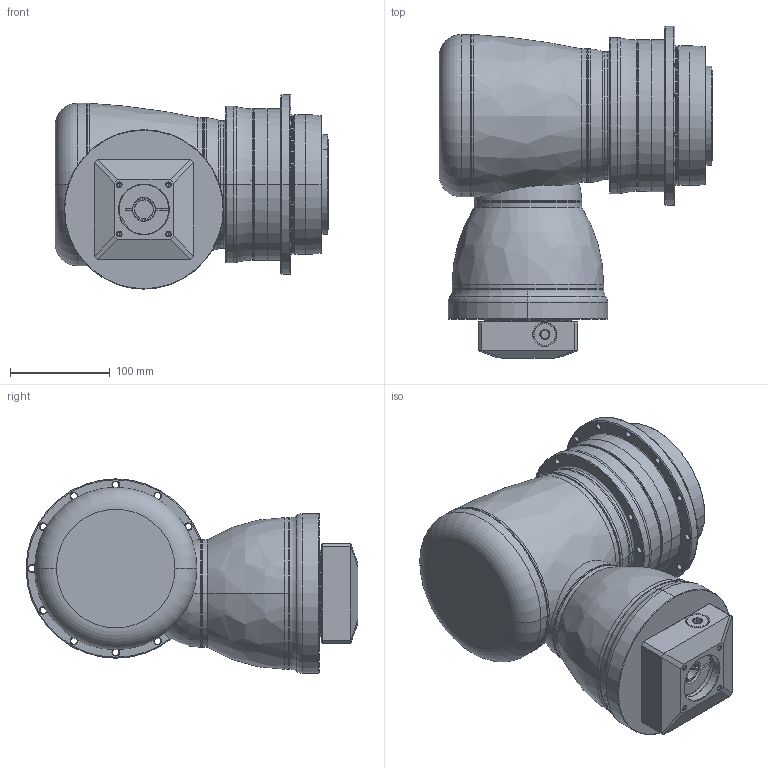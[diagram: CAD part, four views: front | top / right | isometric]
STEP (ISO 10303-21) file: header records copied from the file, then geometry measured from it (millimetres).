
FILE_DESCRIPTION((''),'2;1');
FILE_NAME('AHK140_2ST_19-P0409410101_ASM','2016-10-03T',('d01943'),(''),'PRO/ENGINEER BY PARAMETRIC TECHNOLOGY CORPORATION, 2008410','PRO/ENGINEER BY PARAMETRIC TECHNOLOGY CORPORATION, 2008410','');
FILE_SCHEMA(('CONFIG_CONTROL_DESIGN'));
Length unit declared in the file: millimetre
Products named in the file (12): P1008500002; P1802500011; P0278500003; P0359500002; P1315500001; P1007500001; P1318500701; P0503400008; P0912507201; P0409410101; 21711416017; AHK140_2ST_19-P0409410101_ASM
Assembly tree (11 placements, depth 2):
  AHK140_2ST_19-P0409410101_ASM
    P1008500002
    P1802500011
    P0278500003
    P0359500002
    P1315500001
    P1007500001
    P1318500701
    P0503400008
    P0912507201
    P0409410101
    21711416017
Bounding box: 274.5 x 333 x 195 mm (x, y, z)
Volume: 5128850.8 mm3; surface area: 615134.9 mm2
Topology: 12 solids, 12 shells, 856 faces, 1905 edges, 1101 vertices
Faces by surface type: cylinder 307, cone 272, torus 126, plane 124, bspline 25, sphere 2
Entity records: 28497 total; most frequent: CARTESIAN_POINT 9009, DIRECTION 4497, ORIENTED_EDGE 3686, AXIS2_PLACEMENT_3D 1924, EDGE_CURVE 1843, VERTEX_POINT 1101, CIRCLE 1070, EDGE_LOOP 1008
